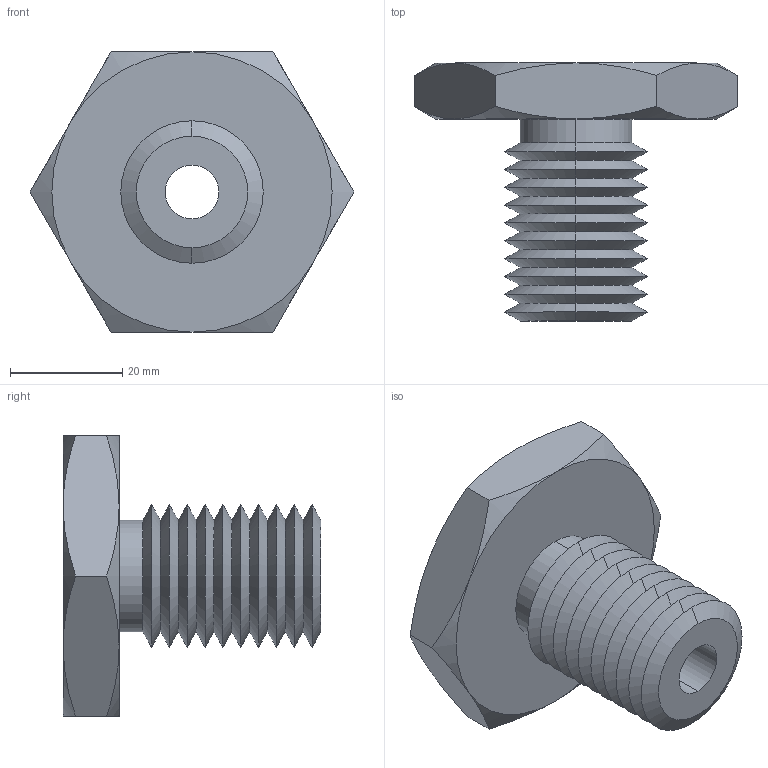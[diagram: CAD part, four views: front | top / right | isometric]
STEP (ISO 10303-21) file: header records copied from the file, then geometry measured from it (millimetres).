
FILE_DESCRIPTION (( 'STEP AP203' ), '1' );
FILE_NAME ('63302.W5100_0,37 UNC-16.step', '2013-12-08T11:40:09', ( 'User' ), ( '' ), 'SwSTEP 2.0', 'SolidWorks 2009', '' );
FILE_SCHEMA (( 'CONFIG_CONTROL_DESIGN' ));
Length unit declared in the file: millimetre
Products named in the file (1): 63302.W5100_0,37 UNC-16
Bounding box: 57.73 x 46 x 50 mm (x, y, z)
Volume: 32233 mm3; surface area: 11856.5 mm2
Topology: 1 solids, 1 shells, 67 faces, 138 edges, 74 vertices
Faces by surface type: cone 54, plane 9, cylinder 4
Entity records: 1939 total; most frequent: CARTESIAN_POINT 464, DIRECTION 312, ORIENTED_EDGE 276, EDGE_CURVE 138, AXIS2_PLACEMENT_3D 130, VERTEX_POINT 74, EDGE_LOOP 70, ADVANCED_FACE 67
